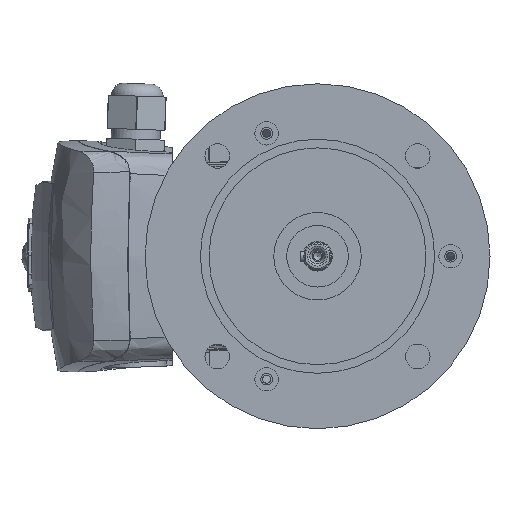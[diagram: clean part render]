
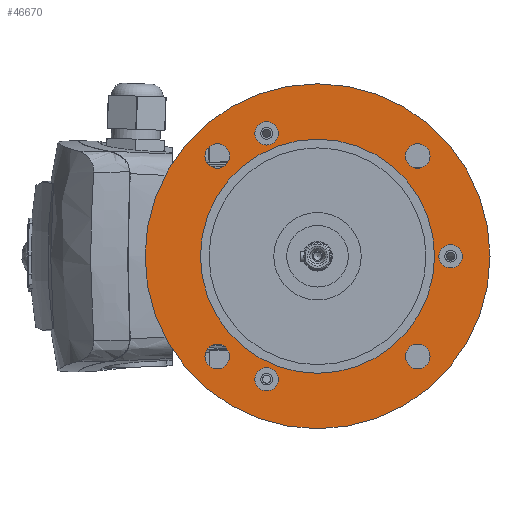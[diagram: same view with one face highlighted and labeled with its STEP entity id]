
A CAD part, left-side view. The second image highlights one B-rep face of the part: STEP entity #46670.
In plain terms, the highlighted planar face has unit normal (-1, 0, 0).
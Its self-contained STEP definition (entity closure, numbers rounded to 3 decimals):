
#45655=CARTESIAN_POINT('',(3.,-54.0,4.75));
#45656=VERTEX_POINT('',#45655);
#45657=CARTESIAN_POINT('',(3.,-54.0,0.0));
#45658=DIRECTION('',(-1.0,0.0,0.0));
#45659=DIRECTION('',(0.0,0.0,1.0));
#45660=AXIS2_PLACEMENT_3D('',#45657,#45658,#45659);
#45661=CIRCLE('',#45660,4.75);
#45662=EDGE_CURVE('',#45656,#45656,#45661,.T.);
#45711=CARTESIAN_POINT('',(3.,20.665,-45.139));
#45712=VERTEX_POINT('',#45711);
#45713=CARTESIAN_POINT('',(3.,20.665,-49.889));
#45714=DIRECTION('',(1.0,0.0,0.0));
#45715=DIRECTION('',(0.0,0.0,-1.0));
#45716=AXIS2_PLACEMENT_3D('',#45713,#45714,#45715);
#45717=CIRCLE('',#45716,4.75);
#45718=EDGE_CURVE('',#45712,#45712,#45717,.T.);
#45767=CARTESIAN_POINT('',(3.,20.665,54.639));
#45768=VERTEX_POINT('',#45767);
#45769=CARTESIAN_POINT('',(3.,20.665,49.889));
#45770=DIRECTION('',(-1.0,0.0,0.0));
#45771=DIRECTION('',(0.0,0.0,1.0));
#45772=AXIS2_PLACEMENT_3D('',#45769,#45770,#45771);
#45773=CIRCLE('',#45772,4.75);
#45774=EDGE_CURVE('',#45768,#45768,#45773,.T.);
#45784=CARTESIAN_POINT('',(3.,-40.659,-45.659));
#45785=VERTEX_POINT('',#45784);
#45786=CARTESIAN_POINT('',(3.,-40.659,-40.659));
#45787=DIRECTION('',(1.0,0.0,0.0));
#45788=DIRECTION('',(0.0,0.0,1.0));
#45789=AXIS2_PLACEMENT_3D('',#45786,#45787,#45788);
#45790=CIRCLE('',#45789,5.);
#45791=EDGE_CURVE('',#45785,#45785,#45790,.T.);
#45812=CARTESIAN_POINT('',(3.,-40.659,35.659));
#45813=VERTEX_POINT('',#45812);
#45814=CARTESIAN_POINT('',(3.,-40.659,40.659));
#45815=DIRECTION('',(1.0,0.0,0.0));
#45816=DIRECTION('',(0.0,0.0,1.0));
#45817=AXIS2_PLACEMENT_3D('',#45814,#45815,#45816);
#45818=CIRCLE('',#45817,5.);
#45819=EDGE_CURVE('',#45813,#45813,#45818,.T.);
#45840=CARTESIAN_POINT('',(3.,40.659,35.659));
#45841=VERTEX_POINT('',#45840);
#45842=CARTESIAN_POINT('',(3.,40.659,40.659));
#45843=DIRECTION('',(1.0,0.0,0.0));
#45844=DIRECTION('',(0.0,0.0,1.0));
#45845=AXIS2_PLACEMENT_3D('',#45842,#45843,#45844);
#45846=CIRCLE('',#45845,5.);
#45847=EDGE_CURVE('',#45841,#45841,#45846,.T.);
#45868=CARTESIAN_POINT('',(3.,40.659,-45.659));
#45869=VERTEX_POINT('',#45868);
#45870=CARTESIAN_POINT('',(3.,40.659,-40.659));
#45871=DIRECTION('',(1.0,0.0,0.0));
#45872=DIRECTION('',(0.0,0.0,1.0));
#45873=AXIS2_PLACEMENT_3D('',#45870,#45871,#45872);
#45874=CIRCLE('',#45873,5.);
#45875=EDGE_CURVE('',#45869,#45869,#45874,.T.);
#46274=CARTESIAN_POINT('',(3.,0.0,47.5));
#46275=VERTEX_POINT('',#46274);
#46276=CARTESIAN_POINT('',(3.,0.0,0.0));
#46277=DIRECTION('',(-1.0,0.0,0.0));
#46278=DIRECTION('',(0.0,0.0,1.0));
#46279=AXIS2_PLACEMENT_3D('',#46276,#46277,#46278);
#46280=CIRCLE('',#46279,47.5);
#46281=EDGE_CURVE('',#46275,#46275,#46280,.T.);
#46313=CARTESIAN_POINT('',(3.,0.0,70.0));
#46314=VERTEX_POINT('',#46313);
#46315=CARTESIAN_POINT('',(3.,0.0,0.0));
#46316=DIRECTION('',(-1.0,0.0,0.0));
#46317=DIRECTION('',(0.0,0.0,1.0));
#46318=AXIS2_PLACEMENT_3D('',#46315,#46316,#46317);
#46319=CIRCLE('',#46318,70.0);
#46320=EDGE_CURVE('',#46314,#46314,#46319,.T.);
#46638=CARTESIAN_POINT('',(3.,70.0,0.0));
#46639=DIRECTION('',(-1.0,0.0,0.0));
#46640=DIRECTION('',(0.0,0.0,1.0));
#46641=AXIS2_PLACEMENT_3D('',#46638,#46639,#46640);
#46642=PLANE('',#46641);
#46643=ORIENTED_EDGE('',*,*,#46320,.T.);
#46644=EDGE_LOOP('',(#46643));
#46645=FACE_OUTER_BOUND('',#46644,.T.);
#46646=ORIENTED_EDGE('',*,*,#46281,.F.);
#46647=EDGE_LOOP('',(#46646));
#46648=FACE_BOUND('',#46647,.T.);
#46649=ORIENTED_EDGE('',*,*,#45662,.F.);
#46650=EDGE_LOOP('',(#46649));
#46651=FACE_BOUND('',#46650,.T.);
#46652=ORIENTED_EDGE('',*,*,#45875,.T.);
#46653=EDGE_LOOP('',(#46652));
#46654=FACE_BOUND('',#46653,.T.);
#46655=ORIENTED_EDGE('',*,*,#45847,.T.);
#46656=EDGE_LOOP('',(#46655));
#46657=FACE_BOUND('',#46656,.T.);
#46658=ORIENTED_EDGE('',*,*,#45819,.T.);
#46659=EDGE_LOOP('',(#46658));
#46660=FACE_BOUND('',#46659,.T.);
#46661=ORIENTED_EDGE('',*,*,#45791,.T.);
#46662=EDGE_LOOP('',(#46661));
#46663=FACE_BOUND('',#46662,.T.);
#46664=ORIENTED_EDGE('',*,*,#45774,.F.);
#46665=EDGE_LOOP('',(#46664));
#46666=FACE_BOUND('',#46665,.T.);
#46667=ORIENTED_EDGE('',*,*,#45718,.T.);
#46668=EDGE_LOOP('',(#46667));
#46669=FACE_BOUND('',#46668,.T.);
#46670=ADVANCED_FACE('',(#46645,#46648,#46651,#46654,#46657,#46660,#46663,#46666,#46669),#46642,.T.);
